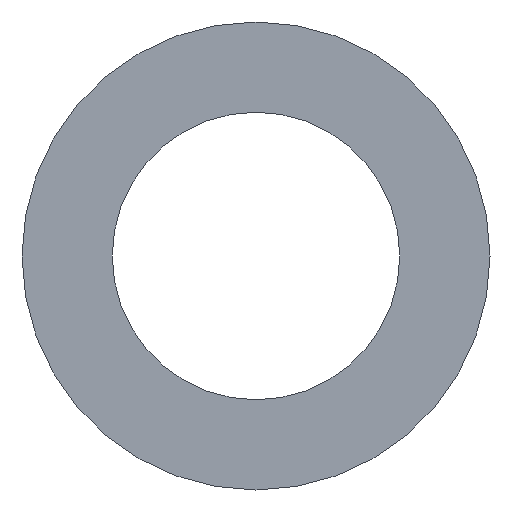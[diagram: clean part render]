
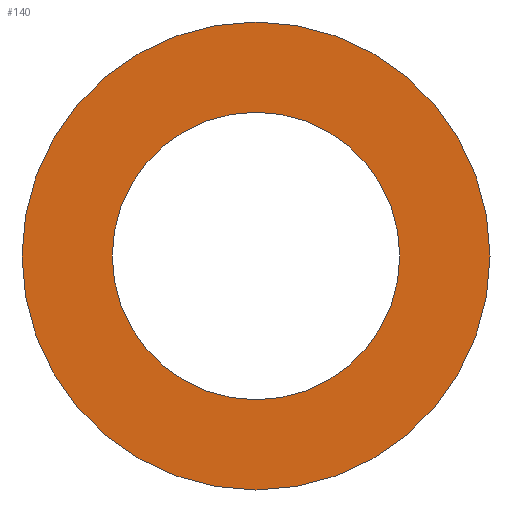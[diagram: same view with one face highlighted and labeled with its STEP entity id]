
A CAD part, front view. The second image highlights one B-rep face of the part: STEP entity #140.
In plain terms, the highlighted planar face has unit normal (0, -1, 0).
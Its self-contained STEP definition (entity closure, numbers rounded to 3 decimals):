
#24 = VERTEX_POINT('',#25);
#25 = CARTESIAN_POINT('',(5.5,-76.,43.));
#32 = CYLINDRICAL_SURFACE('',#33,3.5);
#33 = AXIS2_PLACEMENT_3D('',#34,#35,#36);
#34 = CARTESIAN_POINT('',(2.,-75.,43.));
#35 = DIRECTION('',(-0.,1.,0.));
#36 = DIRECTION('',(1.,0.,0.));
#51 = EDGE_CURVE('',#24,#24,#52,.T.);
#52 = SURFACE_CURVE('',#53,(#58,#65),.PCURVE_S1.);
#53 = CIRCLE('',#54,3.5);
#54 = AXIS2_PLACEMENT_3D('',#55,#56,#57);
#55 = CARTESIAN_POINT('',(2.,-76.,43.));
#56 = DIRECTION('',(0.,-1.,0.));
#57 = DIRECTION('',(1.,0.,0.));
#58 = PCURVE('',#32,#59);
#59 = DEFINITIONAL_REPRESENTATION('',(#60),#64);
#60 = LINE('',#61,#62);
#61 = CARTESIAN_POINT('',(-0.,-1.));
#62 = VECTOR('',#63,1.);
#63 = DIRECTION('',(-1.,0.));
#64 = ( GEOMETRIC_REPRESENTATION_CONTEXT(2) 
PARAMETRIC_REPRESENTATION_CONTEXT() REPRESENTATION_CONTEXT('2D SPACE',''
  ) );
#65 = PCURVE('',#66,#71);
#66 = PLANE('',#67);
#67 = AXIS2_PLACEMENT_3D('',#68,#69,#70);
#68 = CARTESIAN_POINT('',(2.,-76.,43.));
#69 = DIRECTION('',(0.,-1.,0.));
#70 = DIRECTION('',(1.,0.,0.));
#71 = DEFINITIONAL_REPRESENTATION('',(#72),#76);
#72 = CIRCLE('',#73,3.5);
#73 = AXIS2_PLACEMENT_2D('',#74,#75);
#74 = CARTESIAN_POINT('',(0.,0.));
#75 = DIRECTION('',(1.,0.));
#76 = ( GEOMETRIC_REPRESENTATION_CONTEXT(2) 
PARAMETRIC_REPRESENTATION_CONTEXT() REPRESENTATION_CONTEXT('2D SPACE',''
  ) );
#129 = CYLINDRICAL_SURFACE('',#130,2.15);
#130 = AXIS2_PLACEMENT_3D('',#131,#132,#133);
#131 = CARTESIAN_POINT('',(2.,-75.,43.));
#132 = DIRECTION('',(-0.,1.,0.));
#133 = DIRECTION('',(1.,0.,0.));
#140 = ADVANCED_FACE('',(#141,#144),#66,.T.);
#141 = FACE_BOUND('',#142,.T.);
#142 = EDGE_LOOP('',(#143));
#143 = ORIENTED_EDGE('',*,*,#51,.T.);
#144 = FACE_BOUND('',#145,.T.);
#145 = EDGE_LOOP('',(#146));
#146 = ORIENTED_EDGE('',*,*,#147,.T.);
#147 = EDGE_CURVE('',#148,#148,#150,.T.);
#148 = VERTEX_POINT('',#149);
#149 = CARTESIAN_POINT('',(4.15,-76.,43.));
#150 = SURFACE_CURVE('',#151,(#156,#167),.PCURVE_S1.);
#151 = CIRCLE('',#152,2.15);
#152 = AXIS2_PLACEMENT_3D('',#153,#154,#155);
#153 = CARTESIAN_POINT('',(2.,-76.,43.));
#154 = DIRECTION('',(0.,1.,0.));
#155 = DIRECTION('',(1.,0.,0.));
#156 = PCURVE('',#66,#157);
#157 = DEFINITIONAL_REPRESENTATION('',(#158),#166);
#158 = ( BOUNDED_CURVE() B_SPLINE_CURVE(2,(#159,#160,#161,#162,#163,#164
,#165),.UNSPECIFIED.,.T.,.F.) B_SPLINE_CURVE_WITH_KNOTS((1,2,2,2,2,1),(
    -2.094,0.,2.094,4.189,6.283,
8.378),.UNSPECIFIED.) CURVE() GEOMETRIC_REPRESENTATION_ITEM() 
RATIONAL_B_SPLINE_CURVE((1.,0.5,1.,0.5,1.,0.5,1.)) REPRESENTATION_ITEM(
  '') );
#159 = CARTESIAN_POINT('',(2.15,0.));
#160 = CARTESIAN_POINT('',(2.15,-3.724));
#161 = CARTESIAN_POINT('',(-1.075,-1.862));
#162 = CARTESIAN_POINT('',(-4.3,0.));
#163 = CARTESIAN_POINT('',(-1.075,1.862));
#164 = CARTESIAN_POINT('',(2.15,3.724));
#165 = CARTESIAN_POINT('',(2.15,0.));
#166 = ( GEOMETRIC_REPRESENTATION_CONTEXT(2) 
PARAMETRIC_REPRESENTATION_CONTEXT() REPRESENTATION_CONTEXT('2D SPACE',''
  ) );
#167 = PCURVE('',#129,#168);
#168 = DEFINITIONAL_REPRESENTATION('',(#169),#173);
#169 = LINE('',#170,#171);
#170 = CARTESIAN_POINT('',(-6.283,-1.));
#171 = VECTOR('',#172,1.);
#172 = DIRECTION('',(1.,-0.));
#173 = ( GEOMETRIC_REPRESENTATION_CONTEXT(2) 
PARAMETRIC_REPRESENTATION_CONTEXT() REPRESENTATION_CONTEXT('2D SPACE',''
  ) );
